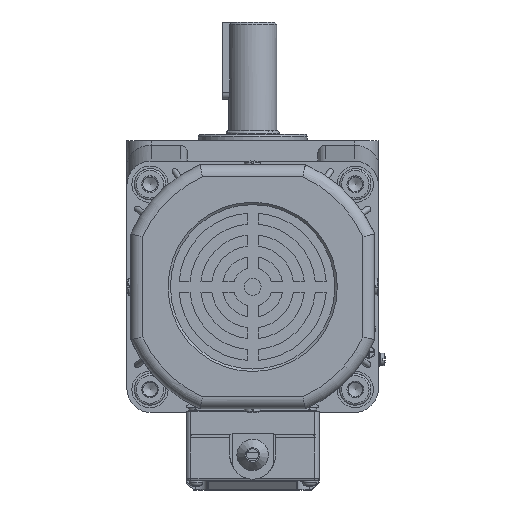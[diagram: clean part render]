
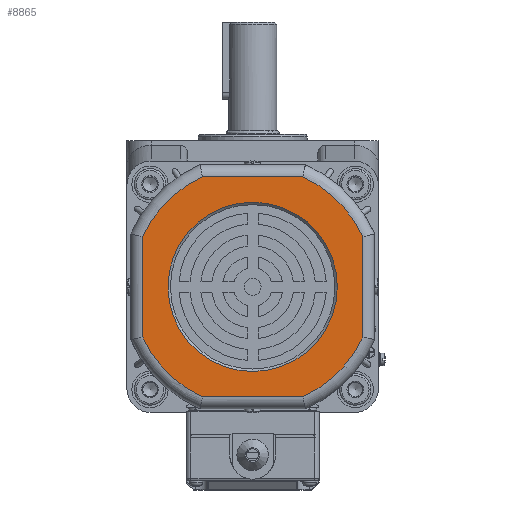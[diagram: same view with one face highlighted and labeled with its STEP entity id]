
A CAD part, left-side view. The second image highlights one B-rep face of the part: STEP entity #8865.
In plain terms, the highlighted planar face has unit normal (-1, 0, 0).
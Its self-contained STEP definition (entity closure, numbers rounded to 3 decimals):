
#2221=PLANE('',#29997);
#5219=LINE('',#47254,#7139);
#5223=LINE('',#47292,#7143);
#5226=LINE('',#47326,#7146);
#5227=LINE('',#47343,#7147);
#7139=VECTOR('',#36203,1.);
#7143=VECTOR('',#36219,1.);
#7146=VECTOR('',#36230,1.);
#7147=VECTOR('',#36237,1.);
#8865=ADVANCED_FACE('',(#9744,#9745),#2221,.F.);
#9744=FACE_BOUND('',#11342,.T.);
#9745=FACE_BOUND('',#11343,.T.);
#11342=EDGE_LOOP('',(#17925,#17926,#17927,#17928,#17929,#17930,#17931,#17932));
#11343=EDGE_LOOP('',(#17933));
#17925=ORIENTED_EDGE('',*,*,#25299,.T.);
#17926=ORIENTED_EDGE('',*,*,#25280,.T.);
#17927=ORIENTED_EDGE('',*,*,#25285,.T.);
#17928=ORIENTED_EDGE('',*,*,#25289,.T.);
#17929=ORIENTED_EDGE('',*,*,#25293,.T.);
#17930=ORIENTED_EDGE('',*,*,#25297,.T.);
#17931=ORIENTED_EDGE('',*,*,#25302,.T.);
#17932=ORIENTED_EDGE('',*,*,#25303,.T.);
#17933=ORIENTED_EDGE('',*,*,#25451,.T.);
#21726=VERTEX_POINT('',#47221);
#21727=VERTEX_POINT('',#47223);
#21729=VERTEX_POINT('',#47253);
#21731=VERTEX_POINT('',#47272);
#21733=VERTEX_POINT('',#47291);
#21735=VERTEX_POINT('',#47310);
#21736=VERTEX_POINT('',#47325);
#21737=VERTEX_POINT('',#47342);
#21837=VERTEX_POINT('',#47644);
#25280=EDGE_CURVE('',#21727,#21726,#27440,.T.);
#25285=EDGE_CURVE('',#21726,#21729,#5219,.T.);
#25289=EDGE_CURVE('',#21729,#21731,#27442,.T.);
#25293=EDGE_CURVE('',#21731,#21733,#5223,.T.);
#25297=EDGE_CURVE('',#21733,#21735,#27444,.T.);
#25299=EDGE_CURVE('',#21736,#21727,#5226,.T.);
#25302=EDGE_CURVE('',#21735,#21737,#5227,.T.);
#25303=EDGE_CURVE('',#21737,#21736,#27446,.T.);
#25451=EDGE_CURVE('',#21837,#21837,#27498,.T.);
#27440=CIRCLE('',#29861,50.);
#27442=CIRCLE('',#29867,50.);
#27444=CIRCLE('',#29873,50.);
#27446=CIRCLE('',#29879,50.);
#27498=CIRCLE('',#29982,35.);
#29861=AXIS2_PLACEMENT_3D('',#47222,#36194,#36195);
#29867=AXIS2_PLACEMENT_3D('',#47273,#36210,#36211);
#29873=AXIS2_PLACEMENT_3D('',#47311,#36226,#36227);
#29879=AXIS2_PLACEMENT_3D('',#47345,#36240,#36241);
#29982=AXIS2_PLACEMENT_3D('',#47643,#36542,#36543);
#29997=AXIS2_PLACEMENT_3D('',#47659,#36572,#36573);
#36194=DIRECTION('',(-1.,0.,0.));
#36195=DIRECTION('',(0.,0.,1.));
#36203=DIRECTION('',(0.,0.,1.));
#36210=DIRECTION('',(-1.,0.,0.));
#36211=DIRECTION('',(0.,0.,1.));
#36219=DIRECTION('',(0.,1.,0.));
#36226=DIRECTION('',(-1.,0.,0.));
#36227=DIRECTION('',(0.,0.,1.));
#36230=DIRECTION('',(0.,-1.,0.));
#36237=DIRECTION('',(0.,0.,-1.));
#36240=DIRECTION('',(-1.,0.,0.));
#36241=DIRECTION('',(0.,0.,1.));
#36542=DIRECTION('',(1.,0.,0.));
#36543=DIRECTION('',(0.,-1.,0.));
#36572=DIRECTION('',(1.,0.,0.));
#36573=DIRECTION('',(0.,0.,1.));
#47221=CARTESIAN_POINT('',(-237.8,-166.171,-79.221));
#47222=CARTESIAN_POINT('',(-237.8,-120.671,-58.491));
#47223=CARTESIAN_POINT('',(-237.8,-141.402,-103.991));
#47253=CARTESIAN_POINT('',(-237.8,-166.171,-37.76));
#47254=CARTESIAN_POINT('',(-237.8,-166.171,-36.702));
#47272=CARTESIAN_POINT('',(-237.8,-141.402,-12.991));
#47273=CARTESIAN_POINT('',(-237.8,-120.671,-58.491));
#47291=CARTESIAN_POINT('',(-237.8,-99.941,-12.991));
#47292=CARTESIAN_POINT('',(-237.8,-98.882,-12.991));
#47310=CARTESIAN_POINT('',(-237.8,-75.171,-37.76));
#47311=CARTESIAN_POINT('',(-237.8,-120.671,-58.491));
#47325=CARTESIAN_POINT('',(-237.8,-99.941,-103.991));
#47326=CARTESIAN_POINT('',(-237.8,-142.46,-103.991));
#47342=CARTESIAN_POINT('',(-237.8,-75.171,-79.221));
#47343=CARTESIAN_POINT('',(-237.8,-75.171,-80.28));
#47345=CARTESIAN_POINT('',(-237.8,-120.671,-58.491));
#47643=CARTESIAN_POINT('',(-237.8,-120.671,-58.491));
#47644=CARTESIAN_POINT('',(-237.8,-155.671,-58.491));
#47659=CARTESIAN_POINT('',(-237.8,-120.671,-58.491));
